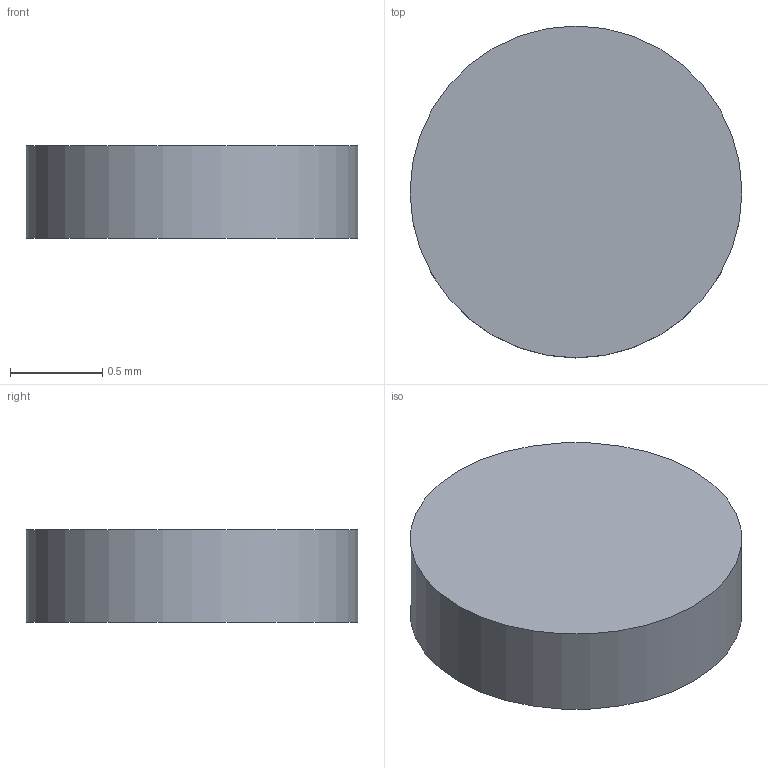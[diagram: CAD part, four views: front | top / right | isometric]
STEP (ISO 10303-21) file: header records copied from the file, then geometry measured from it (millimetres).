
FILE_DESCRIPTION(('FreeCAD Model'),'2;1');
FILE_NAME('Open CASCADE Shape Model','2026-02-11T09:39:19',(''),(''), 'Open CASCADE STEP processor 7.8','FreeCAD','Unknown');
FILE_SCHEMA(('AUTOMOTIVE_DESIGN { 1 0 10303 214 1 1 1 1 }'));
Length unit declared in the file: millimetre
Products named in the file (1): Body
Bounding box: 1.8 x 1.8 x 0.5 mm (x, y, z)
Volume: 1.3 mm3; surface area: 7.9 mm2
Topology: 1 solids, 1 shells, 3 faces, 3 edges, 2 vertices
Faces by surface type: plane 2, cylinder 1
Full cylindrical faces by diameter (mm): 1.8 x1
Entity records: 81 total; most frequent: DIRECTION 13, CARTESIAN_POINT 9, AXIS2_PLACEMENT_3D 6, ORIENTED_EDGE 6, ADVANCED_FACE 3, FACE_BOUND 3, EDGE_LOOP 3, EDGE_CURVE 3
